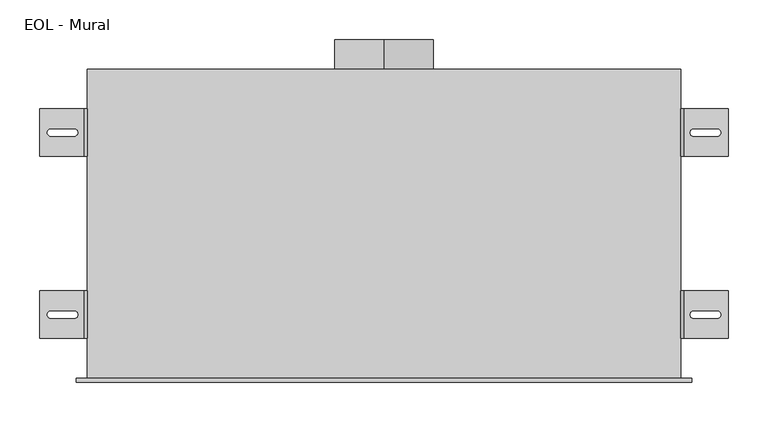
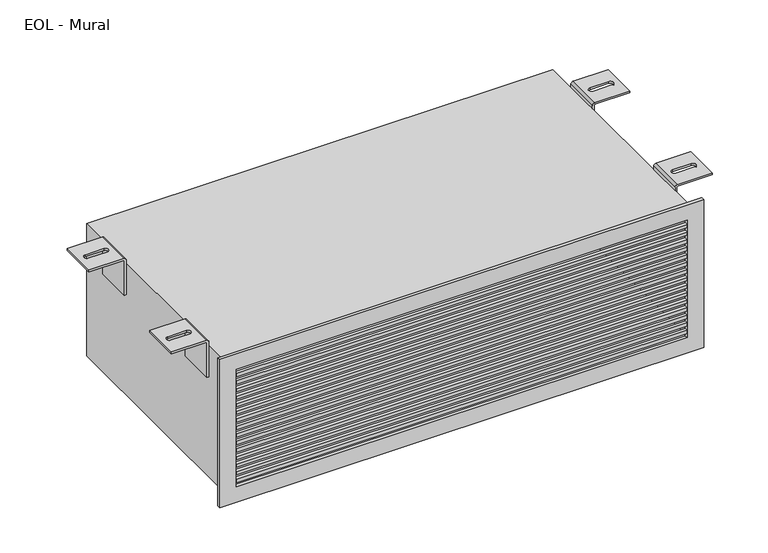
"""IFC4 building model written with IfcOpenShell, lengths in millimetres: air terminal geometry, EOL - Mural : EOL-M125-750x225-2."""

from ifc_helpers import new_model, si_unit, point, frame, origin, origin_2d, place, context, project, spatial, polyline, circle_curve, ellipse_curve, trimmed, segment, composite_curve, outline, extrude, source, transform, mapped, element, save
from ifc_brep_helpers import plane_surface, cylinder_surface, revolved_surface, extruded_surface, advanced_brep


def eol_mural_cd177fe5(model_context):
    return source(origin(), model_context, "Body", "SolidModel", [
        advanced_brep(
        [(379.0013366, 110.0, 121.5), (435.0, 110.0, 121.5), (435.0, 110.0, 118.5), (379.0, 110.0, 118.5), (378.0, 110.0, 117.5), (378.0, 110.0, 58.5), (375.0, 110.0, 58.5), (375.0, 110.0, 117.4986634), (379.0013366, 50.0, 121.5), (375.0, 50.0, 117.4986634), (375.0, 50.0, 58.5), (378.0, 50.0, 58.5), (378.0, 50.0, 117.5), (379.0, 50.0, 118.5), (435.0, 50.0, 118.5), (435.0, 50.0, 121.5), (421.0287952, 75.4804328, 121.5), (391.0287952, 75.4804328, 121.5), (391.0287952, 84.4804328, 121.5), (421.0287952, 84.4804328, 121.5), (391.0287952, 75.4804328, 118.5), (421.0287952, 75.4804328, 118.5), (421.0287952, 84.4804328, 118.5), (391.0287952, 84.4804328, 118.5)],
        [
            (0, 1),
            (1, 2),
            (2, 3),
            (3, 4, circle_curve(frame((379.0, 110.0, 117.5), z_axis=(0.0, -1.0, 0.0), x_axis=(-1.0000000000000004, 0.0, 0.0)), 1.0)),
            (4, 5),
            (5, 6),
            (6, 7),
            (7, 0, circle_curve(frame((379.0013366, 110.0, 117.4986634), z_axis=(0.0, 1.0, 0.0), x_axis=(-1.0000000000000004, 0.0, 0.0)), 4.0013366)),
            (8, 9, circle_curve(frame((379.0013366, 50.0, 117.4986634), z_axis=(0.0, -1.0, 0.0), x_axis=(-1.0000000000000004, 0.0, 0.0)), 4.0013366)),
            (9, 10),
            (10, 11),
            (11, 12),
            (12, 13, circle_curve(frame((379.0, 50.0, 117.5), z_axis=(0.0, 1.0, 0.0), x_axis=(-1.0000000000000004, 0.0, 0.0)), 1.0)),
            (13, 14),
            (14, 15),
            (15, 8),
            (0, 8),
            (15, 1),
            (16, 17),
            (17, 18, circle_curve(frame((391.0287952, 79.9804328, 121.5), z_axis=(0.0, 0.0, -1.0), x_axis=(0.0, -1.0, 0.0)), 4.5)),
            (18, 19),
            (19, 16, circle_curve(frame((421.0287952, 79.9804328, 121.5), z_axis=(0.0, 0.0, -1.0), x_axis=(0.0, -1.0, 0.0)), 4.5)),
            (14, 2),
            (13, 3),
            (20, 21),
            (21, 22, ellipse_curve(frame((421.0287952, 79.9804328, 118.5), z_axis=(0.0, 0.0, 1.0), x_axis=(0.0, -1.0, 0.0)), 4.5, 4.5)),
            (22, 23),
            (23, 20, ellipse_curve(frame((391.0287952, 79.9804328, 118.5), z_axis=(0.0, 0.0, 1.0), x_axis=(0.0, -1.0, 0.0)), 4.5, 4.5)),
            (12, 4),
            (11, 5),
            (10, 6),
            (9, 7),
            (16, 21),
            (20, 17),
            (19, 22),
            (18, 23),
        ],
        [
            plane_surface(frame((435.0, 110.0, 121.5), z_axis=(0.0, 1.0, 0.0), x_axis=(1.0, 0.0, 0.0))),
            plane_surface(frame((435.0, 50.0, 121.5), z_axis=(0.0, -1.0, 0.0), x_axis=(-1.0, 0.0, 0.0))),
            plane_surface(frame((379.0013366, 110.0, 121.5), z_axis=(0.0, 0.0, 1.0), x_axis=(0.0, -1.0, 0.0))),
            plane_surface(frame((435.0, 110.0, 121.5), z_axis=(1.0, 0.0, 0.0), x_axis=(0.0, -1.0, 0.0))),
            plane_surface(frame((435.0, 110.0, 118.5), z_axis=(0.0, 0.0, -1.0), x_axis=(0.0, -1.0, 0.0))),
            revolved_surface(polyline([(378.0, 50.0, 117.5), (378.0, 110.00000000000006, 117.5)]), (379.0, 50.0, 117.5), (0.0, -1.0000000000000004, 0.0)),
            plane_surface(frame((378.0, 110.0, 117.5), z_axis=(1.0, 0.0, 0.0), x_axis=(0.0, -1.0, 0.0))),
            plane_surface(frame((378.0, 110.0, 58.5), z_axis=(0.0, 0.0, -1.0), x_axis=(0.0, -1.0, 0.0))),
            plane_surface(frame((375.0, 110.0, 58.5), z_axis=(-1.0, 0.0, 0.0), x_axis=(0.0, -1.0, 0.0))),
            cylinder_surface(frame((379.0013366, 50.0, 117.4986634), z_axis=(0.0, 1.0000000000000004, 0.0), x_axis=(-1.0000000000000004, 0.0, 0.0)), 4.0013366),
            plane_surface(frame((391.0287952, 75.4804328, 121.5), z_axis=(0.0, 1.0, 0.0), x_axis=(0.0, 0.0, -1.0))),
            extruded_surface(trimmed(ellipse_curve(frame((421.0287952, 79.9804328, 118.5), z_axis=(0.0, 0.0, 1.0), x_axis=(0.0, -1.0, 0.0)), 4.5, 4.5), [point((421.0287952, 75.4804328, 118.5))], [point((421.0287952, 84.4804328, 118.5))], True, "CARTESIAN"), (0.0, 0.0, -3.0), 3.0),
            plane_surface(frame((421.0287952, 84.4804328, 121.5), z_axis=(0.0, -1.0, 0.0), x_axis=(0.0, 0.0, -1.0))),
            extruded_surface(trimmed(ellipse_curve(frame((391.0287952, 79.9804328, 118.5), z_axis=(0.0, 0.0, 1.0), x_axis=(0.0, -1.0, 0.0)), 4.5, 4.5), [point((391.0287952, 84.4804328, 118.5))], [point((391.0287952, 75.4804328, 118.5))], True, "CARTESIAN"), (0.0, 0.0, -3.0), 3.0),
        ],
        [
            (0, [[1, 2, 3, 4, 5, 6, 7, 8]]),
            (1, [[9, 10, 11, 12, 13, 14, 15, 16]]),
            (2, [[-1, 17, -16, 18], [19, 20, 21, 22]]),
            (3, [[-2, -18, -15, 23]]),
            (4, [[-3, -23, -14, 24], [25, 26, 27, 28]]),
            (5, [[-4, -24, -13, 29]]),
            (6, [[-5, -29, -12, 30]]),
            (7, [[-6, -30, -11, 31]]),
            (8, [[-7, -31, -10, 32]]),
            (9, [[-8, -32, -9, -17]]),
            (10, [[33, -25, 34, -19]]),
            (11, [[-33, -22, 35, -26]]),
            (12, [[-35, -21, 36, -27]]),
            (13, [[-34, -28, -36, -20]]),
        ],
    ),
        advanced_brep(
        [(379.0013366, 340.0, 121.5), (435.0, 340.0, 121.5), (435.0, 340.0, 118.5), (379.0, 340.0, 118.5), (378.0, 340.0, 117.5), (378.0, 340.0, 58.5), (375.0, 340.0, 58.5), (375.0, 340.0, 117.4986634), (379.0013366, 280.0, 121.5), (375.0, 280.0, 117.4986634), (375.0, 280.0, 58.5), (378.0, 280.0, 58.5), (378.0, 280.0, 117.5), (379.0, 280.0, 118.5), (435.0, 280.0, 118.5), (435.0, 280.0, 121.5), (421.0287952, 305.4804328, 121.5), (391.0287952, 305.4804328, 121.5), (391.0287952, 314.4804328, 121.5), (421.0287952, 314.4804328, 121.5), (391.0287952, 305.4804328, 118.5), (421.0287952, 305.4804328, 118.5), (421.0287952, 314.4804328, 118.5), (391.0287952, 314.4804328, 118.5)],
        [
            (0, 1),
            (1, 2),
            (2, 3),
            (3, 4, circle_curve(frame((379.0, 340.0, 117.5), z_axis=(0.0, -1.0, 0.0), x_axis=(-1.0, 0.0, 0.0)), 1.0)),
            (4, 5),
            (5, 6),
            (6, 7),
            (7, 0, circle_curve(frame((379.0013366, 340.0, 117.4986634), z_axis=(0.0, 1.0, 0.0), x_axis=(-1.0, 0.0, 0.0)), 4.0013366)),
            (8, 9, circle_curve(frame((379.0013366, 280.0, 117.4986634), z_axis=(0.0, -1.0, 0.0), x_axis=(-1.0, 0.0, 0.0)), 4.0013366)),
            (9, 10),
            (10, 11),
            (11, 12),
            (12, 13, circle_curve(frame((379.0, 280.0, 117.5), z_axis=(0.0, 1.0, 0.0), x_axis=(-1.0, 0.0, 0.0)), 1.0)),
            (13, 14),
            (14, 15),
            (15, 8),
            (0, 8),
            (15, 1),
            (16, 17),
            (17, 18, circle_curve(frame((391.0287952, 309.9804328, 121.5), z_axis=(0.0, 0.0, -1.0), x_axis=(0.0, -1.0, 0.0)), 4.5)),
            (18, 19),
            (19, 16, circle_curve(frame((421.0287952, 309.9804328, 121.5), z_axis=(0.0, 0.0, -1.0), x_axis=(0.0, -1.0, 0.0)), 4.5)),
            (14, 2),
            (13, 3),
            (20, 21),
            (21, 22, ellipse_curve(frame((421.0287952, 309.9804328, 118.5), z_axis=(0.0, 0.0, 1.0), x_axis=(0.0, -1.0, 0.0)), 4.5, 4.5)),
            (22, 23),
            (23, 20, ellipse_curve(frame((391.0287952, 309.9804328, 118.5), z_axis=(0.0, 0.0, 1.0), x_axis=(0.0, -1.0, 0.0)), 4.5, 4.5)),
            (12, 4),
            (11, 5),
            (10, 6),
            (9, 7),
            (16, 21),
            (20, 17),
            (19, 22),
            (18, 23),
        ],
        [
            plane_surface(frame((435.0, 340.0, 121.5), z_axis=(0.0, 1.0, 0.0), x_axis=(1.0, 0.0, 0.0))),
            plane_surface(frame((435.0, 280.0, 121.5), z_axis=(0.0, -1.0, 0.0), x_axis=(-1.0, 0.0, 0.0))),
            plane_surface(frame((379.0013366, 340.0, 121.5), z_axis=(0.0, 0.0, 1.0), x_axis=(0.0, -1.0, 0.0))),
            plane_surface(frame((435.0, 340.0, 121.5), z_axis=(1.0, 0.0, 0.0), x_axis=(0.0, -1.0, 0.0))),
            plane_surface(frame((435.0, 340.0, 118.5), z_axis=(0.0, 0.0, -1.0), x_axis=(0.0, -1.0, 0.0))),
            revolved_surface(polyline([(378.0, 280.0, 117.5), (378.0, 340.0, 117.5)]), (379.0, 280.0, 117.5), (0.0, -1.0, 0.0)),
            plane_surface(frame((378.0, 340.0, 117.5), z_axis=(1.0, 0.0, 0.0), x_axis=(0.0, -1.0, 0.0))),
            plane_surface(frame((378.0, 340.0, 58.5), z_axis=(0.0, 0.0, -1.0), x_axis=(0.0, -1.0, 0.0))),
            plane_surface(frame((375.0, 340.0, 58.5), z_axis=(-1.0, 0.0, 0.0), x_axis=(0.0, -1.0, 0.0))),
            cylinder_surface(frame((379.0013366, 280.0, 117.4986634), z_axis=(0.0, 1.0, 0.0), x_axis=(-1.0, 0.0, 0.0)), 4.0013366),
            plane_surface(frame((391.0287952, 305.4804328, 121.5), z_axis=(0.0, 1.0, 0.0), x_axis=(0.0, 0.0, -1.0))),
            extruded_surface(trimmed(ellipse_curve(frame((421.0287952, 309.9804328, 118.5), z_axis=(0.0, 0.0, 1.0), x_axis=(0.0, -1.0, 0.0)), 4.5, 4.5), [point((421.0287952, 305.4804328, 118.5))], [point((421.0287952, 314.4804328, 118.5))], True, "CARTESIAN"), (0.0, 0.0, -3.0), 3.0),
            plane_surface(frame((421.0287952, 314.4804328, 121.5), z_axis=(0.0, -1.0, 0.0), x_axis=(0.0, 0.0, -1.0))),
            extruded_surface(trimmed(ellipse_curve(frame((391.0287952, 309.9804328, 118.5), z_axis=(0.0, 0.0, 1.0), x_axis=(0.0, -1.0, 0.0)), 4.5, 4.5), [point((391.0287952, 314.4804328, 118.5))], [point((391.0287952, 305.4804328, 118.5))], True, "CARTESIAN"), (0.0, 0.0, -3.0), 3.0),
        ],
        [
            (0, [[1, 2, 3, 4, 5, 6, 7, 8]]),
            (1, [[9, 10, 11, 12, 13, 14, 15, 16]]),
            (2, [[-1, 17, -16, 18], [19, 20, 21, 22]]),
            (3, [[-2, -18, -15, 23]]),
            (4, [[-3, -23, -14, 24], [25, 26, 27, 28]]),
            (5, [[-4, -24, -13, 29]]),
            (6, [[-5, -29, -12, 30]]),
            (7, [[-6, -30, -11, 31]]),
            (8, [[-7, -31, -10, 32]]),
            (9, [[-8, -32, -9, -17]]),
            (10, [[33, -25, 34, -19]]),
            (11, [[-33, -22, 35, -26]]),
            (12, [[-35, -21, 36, -27]]),
            (13, [[-34, -28, -36, -20]]),
        ],
    ),
        advanced_brep(
        [(-379.0013366, 50.0, 121.5), (-435.0, 50.0, 121.5), (-435.0, 50.0, 118.5), (-379.0, 50.0, 118.5), (-378.0, 50.0, 117.5), (-378.0, 50.0, 58.5), (-375.0, 50.0, 58.5), (-375.0, 50.0, 117.4986634), (-379.0013366, 110.0, 121.5), (-375.0, 110.0, 117.4986634), (-375.0, 110.0, 58.5), (-378.0, 110.0, 58.5), (-378.0, 110.0, 117.5), (-379.0, 110.0, 118.5), (-435.0, 110.0, 118.5), (-435.0, 110.0, 121.5), (-421.0287952, 84.5195672, 121.5), (-391.0287952, 84.5195672, 121.5), (-391.0287952, 75.5195672, 121.5), (-421.0287952, 75.5195672, 121.5), (-391.0287952, 84.5195672, 118.5), (-421.0287952, 84.5195672, 118.5), (-421.0287952, 75.5195672, 118.5), (-391.0287952, 75.5195672, 118.5)],
        [
            (0, 1),
            (1, 2),
            (2, 3),
            (3, 4, circle_curve(frame((-379.0, 50.0, 117.5), z_axis=(0.0, 1.0, 0.0), x_axis=(1.0, 0.0, 0.0)), 1.0)),
            (4, 5),
            (5, 6),
            (6, 7),
            (7, 0, circle_curve(frame((-379.0013366, 50.0, 117.4986634), z_axis=(0.0, -1.0, 0.0), x_axis=(1.0, 0.0, 0.0)), 4.0013366)),
            (8, 9, circle_curve(frame((-379.0013366, 110.0, 117.4986634), z_axis=(0.0, 1.0, 0.0), x_axis=(1.0, 0.0, 0.0)), 4.0013366)),
            (9, 10),
            (10, 11),
            (11, 12),
            (12, 13, circle_curve(frame((-379.0, 110.0, 117.5), z_axis=(0.0, -1.0, 0.0), x_axis=(1.0, 0.0, 0.0)), 1.0)),
            (13, 14),
            (14, 15),
            (15, 8),
            (0, 8),
            (15, 1),
            (16, 17),
            (17, 18, circle_curve(frame((-391.0287952, 80.0195672, 121.5), z_axis=(0.0, 0.0, -1.0), x_axis=(0.0, 1.0, 0.0)), 4.5)),
            (18, 19),
            (19, 16, circle_curve(frame((-421.0287952, 80.0195672, 121.5), z_axis=(0.0, 0.0, -1.0), x_axis=(0.0, 1.0, 0.0)), 4.5)),
            (14, 2),
            (13, 3),
            (20, 21),
            (21, 22, ellipse_curve(frame((-421.0287952, 80.0195672, 118.5), z_axis=(0.0, 0.0, 1.0), x_axis=(0.0, 1.0, 0.0)), 4.5, 4.5)),
            (22, 23),
            (23, 20, ellipse_curve(frame((-391.0287952, 80.0195672, 118.5), z_axis=(0.0, 0.0, 1.0), x_axis=(0.0, 1.0, 0.0)), 4.5, 4.5)),
            (12, 4),
            (11, 5),
            (10, 6),
            (9, 7),
            (16, 21),
            (20, 17),
            (19, 22),
            (18, 23),
        ],
        [
            plane_surface(frame((-435.0, 50.0, 121.5), z_axis=(0.0, -1.0, 0.0), x_axis=(-1.0, 0.0, 0.0))),
            plane_surface(frame((-435.0, 110.0, 121.5), z_axis=(0.0, 1.0, 0.0), x_axis=(1.0, 0.0, 0.0))),
            plane_surface(frame((-379.0013366, 50.0, 121.5), z_axis=(0.0, 0.0, 1.0), x_axis=(0.0, 1.0, 0.0))),
            plane_surface(frame((-435.0, 50.0, 121.5), z_axis=(-1.0, 0.0, 0.0), x_axis=(0.0, 1.0, 0.0))),
            plane_surface(frame((-435.0, 50.0, 118.5), z_axis=(0.0, 0.0, -1.0), x_axis=(0.0, 1.0, 0.0))),
            revolved_surface(polyline([(-378.0, 110.0, 117.5), (-378.0, 50.0, 117.5)]), (-379.0, 110.0, 117.5), (0.0, 1.0, 0.0)),
            plane_surface(frame((-378.0, 50.0, 117.5), z_axis=(-1.0, 0.0, 0.0), x_axis=(0.0, 1.0, 0.0))),
            plane_surface(frame((-378.0, 50.0, 58.5), z_axis=(0.0, 0.0, -1.0), x_axis=(0.0, 1.0, 0.0))),
            plane_surface(frame((-375.0, 50.0, 58.5), z_axis=(1.0, 0.0, 0.0), x_axis=(0.0, 1.0, 0.0))),
            cylinder_surface(frame((-379.0013366, 110.0, 117.4986634), z_axis=(0.0, -1.0, 0.0), x_axis=(1.0, 0.0, 0.0)), 4.0013366),
            plane_surface(frame((-391.0287952, 84.5195672, 121.5), z_axis=(0.0, -1.0, 0.0), x_axis=(0.0, 0.0, -1.0))),
            extruded_surface(trimmed(ellipse_curve(frame((-421.0287952, 80.0195672, 118.5), z_axis=(0.0, 0.0, 1.0), x_axis=(0.0, 1.0, 0.0)), 4.5, 4.5), [point((-421.0287952, 84.5195672, 118.5))], [point((-421.0287952, 75.5195672, 118.5))], True, "CARTESIAN"), (0.0, 0.0, -3.0), 3.0),
            plane_surface(frame((-421.0287952, 75.5195672, 121.5), z_axis=(0.0, 1.0, 0.0), x_axis=(0.0, 0.0, -1.0))),
            extruded_surface(trimmed(ellipse_curve(frame((-391.0287952, 80.0195672, 118.5), z_axis=(0.0, 0.0, 1.0), x_axis=(0.0, 1.0, 0.0)), 4.5, 4.5), [point((-391.0287952, 75.5195672, 118.5))], [point((-391.0287952, 84.5195672, 118.5))], True, "CARTESIAN"), (0.0, 0.0, -3.0), 3.0),
        ],
        [
            (0, [[1, 2, 3, 4, 5, 6, 7, 8]]),
            (1, [[9, 10, 11, 12, 13, 14, 15, 16]]),
            (2, [[-1, 17, -16, 18], [19, 20, 21, 22]]),
            (3, [[-2, -18, -15, 23]]),
            (4, [[-3, -23, -14, 24], [25, 26, 27, 28]]),
            (5, [[-4, -24, -13, 29]]),
            (6, [[-5, -29, -12, 30]]),
            (7, [[-6, -30, -11, 31]]),
            (8, [[-7, -31, -10, 32]]),
            (9, [[-8, -32, -9, -17]]),
            (10, [[33, -25, 34, -19]]),
            (11, [[-33, -22, 35, -26]]),
            (12, [[-35, -21, 36, -27]]),
            (13, [[-34, -28, -36, -20]]),
        ],
    ),
        advanced_brep(
        [(-379.0013366, 280.0, 121.5), (-435.0, 280.0, 121.5), (-435.0, 280.0, 118.5), (-379.0, 280.0, 118.5), (-378.0, 280.0, 117.5), (-378.0, 280.0, 58.5), (-375.0, 280.0, 58.5), (-375.0, 280.0, 117.4986634), (-379.0013366, 340.0, 121.5), (-375.0, 340.0, 117.4986634), (-375.0, 340.0, 58.5), (-378.0, 340.0, 58.5), (-378.0, 340.0, 117.5), (-379.0, 340.0, 118.5), (-435.0, 340.0, 118.5), (-435.0, 340.0, 121.5), (-421.0287952, 314.5195672, 121.5), (-391.0287952, 314.5195672, 121.5), (-391.0287952, 305.5195672, 121.5), (-421.0287952, 305.5195672, 121.5), (-391.0287952, 314.5195672, 118.5), (-421.0287952, 314.5195672, 118.5), (-421.0287952, 305.5195672, 118.5), (-391.0287952, 305.5195672, 118.5)],
        [
            (0, 1),
            (1, 2),
            (2, 3),
            (3, 4, circle_curve(frame((-379.0, 280.0, 117.5), z_axis=(0.0, 1.0, 0.0), x_axis=(1.0, 0.0, 0.0)), 1.0)),
            (4, 5),
            (5, 6),
            (6, 7),
            (7, 0, circle_curve(frame((-379.0013366, 280.0, 117.4986634), z_axis=(0.0, -1.0, 0.0), x_axis=(1.0, 0.0, 0.0)), 4.0013366)),
            (8, 9, circle_curve(frame((-379.0013366, 340.0, 117.4986634), z_axis=(0.0, 1.0, 0.0), x_axis=(1.0, 0.0, 0.0)), 4.0013366)),
            (9, 10),
            (10, 11),
            (11, 12),
            (12, 13, circle_curve(frame((-379.0, 340.0, 117.5), z_axis=(0.0, -1.0, 0.0), x_axis=(1.0, 0.0, 0.0)), 1.0)),
            (13, 14),
            (14, 15),
            (15, 8),
            (0, 8),
            (15, 1),
            (16, 17),
            (17, 18, circle_curve(frame((-391.0287952, 310.0195672, 121.5), z_axis=(0.0, 0.0, -1.0), x_axis=(0.0, 1.0, 0.0)), 4.5)),
            (18, 19),
            (19, 16, circle_curve(frame((-421.0287952, 310.0195672, 121.5), z_axis=(0.0, 0.0, -1.0), x_axis=(0.0, 1.0, 0.0)), 4.5)),
            (14, 2),
            (13, 3),
            (20, 21),
            (21, 22, ellipse_curve(frame((-421.0287952, 310.0195672, 118.5), z_axis=(0.0, 0.0, 1.0), x_axis=(0.0, 1.0, 0.0)), 4.5, 4.5)),
            (22, 23),
            (23, 20, ellipse_curve(frame((-391.0287952, 310.0195672, 118.5), z_axis=(0.0, 0.0, 1.0), x_axis=(0.0, 1.0, 0.0)), 4.5, 4.5)),
            (12, 4),
            (11, 5),
            (10, 6),
            (9, 7),
            (16, 21),
            (20, 17),
            (19, 22),
            (18, 23),
        ],
        [
            plane_surface(frame((-435.0, 280.0, 121.5), z_axis=(0.0, -1.0, 0.0), x_axis=(-1.0, 0.0, 0.0))),
            plane_surface(frame((-435.0, 340.0, 121.5), z_axis=(0.0, 1.0, 0.0), x_axis=(1.0, 0.0, 0.0))),
            plane_surface(frame((-379.0013366, 280.0, 121.5), z_axis=(0.0, 0.0, 1.0), x_axis=(0.0, 1.0, 0.0))),
            plane_surface(frame((-435.0, 280.0, 121.5), z_axis=(-1.0, 0.0, 0.0), x_axis=(0.0, 1.0, 0.0))),
            plane_surface(frame((-435.0, 280.0, 118.5), z_axis=(0.0, 0.0, -1.0), x_axis=(0.0, 1.0, 0.0))),
            revolved_surface(polyline([(-378.0, 340.0, 117.5), (-378.0, 280.0, 117.5)]), (-379.0, 340.0, 117.5), (0.0, 1.0, 0.0)),
            plane_surface(frame((-378.0, 280.0, 117.5), z_axis=(-1.0, 0.0, 0.0), x_axis=(0.0, 1.0, 0.0))),
            plane_surface(frame((-378.0, 280.0, 58.5), z_axis=(0.0, 0.0, -1.0), x_axis=(0.0, 1.0, 0.0))),
            plane_surface(frame((-375.0, 280.0, 58.5), z_axis=(1.0, 0.0, 0.0), x_axis=(0.0, 1.0, 0.0))),
            cylinder_surface(frame((-379.0013366, 340.0, 117.4986634), z_axis=(0.0, -1.0, 0.0), x_axis=(1.0, 0.0, 0.0)), 4.0013366),
            plane_surface(frame((-391.0287952, 314.5195672, 121.5), z_axis=(0.0, -1.0, 0.0), x_axis=(0.0, 0.0, -1.0))),
            extruded_surface(trimmed(ellipse_curve(frame((-421.0287952, 310.0195672, 118.5), z_axis=(0.0, 0.0, 1.0), x_axis=(0.0, 1.0, 0.0)), 4.5, 4.5), [point((-421.0287952, 314.5195672, 118.5))], [point((-421.0287952, 305.5195672, 118.5))], True, "CARTESIAN"), (0.0, 0.0, -3.0), 3.0),
            plane_surface(frame((-421.0287952, 305.5195672, 121.5), z_axis=(0.0, 1.0, 0.0), x_axis=(0.0, 0.0, -1.0))),
            extruded_surface(trimmed(ellipse_curve(frame((-391.0287952, 310.0195672, 118.5), z_axis=(0.0, 0.0, 1.0), x_axis=(0.0, 1.0, 0.0)), 4.5, 4.5), [point((-391.0287952, 305.5195672, 118.5))], [point((-391.0287952, 314.5195672, 118.5))], True, "CARTESIAN"), (0.0, 0.0, -3.0), 3.0),
        ],
        [
            (0, [[1, 2, 3, 4, 5, 6, 7, 8]]),
            (1, [[9, 10, 11, 12, 13, 14, 15, 16]]),
            (2, [[-1, 17, -16, 18], [19, 20, 21, 22]]),
            (3, [[-2, -18, -15, 23]]),
            (4, [[-3, -23, -14, 24], [25, 26, 27, 28]]),
            (5, [[-4, -24, -13, 29]]),
            (6, [[-5, -29, -12, 30]]),
            (7, [[-6, -30, -11, 31]]),
            (8, [[-7, -31, -10, 32]]),
            (9, [[-8, -32, -9, -17]]),
            (10, [[33, -25, 34, -19]]),
            (11, [[-33, -22, 35, -26]]),
            (12, [[-35, -21, 36, -27]]),
            (13, [[-34, -28, -36, -20]]),
        ],
    ),
        extrude(outline(composite_curve([segment(trimmed(circle_curve(origin_2d(), 62.5), [point((-62.5, 0.0))], [point((62.5, 0.0))], False, "CARTESIAN"), True, "CONTINUOUS"), segment(trimmed(circle_curve(origin_2d(), 62.5), [point((62.5, 0.0))], [point((-62.5, 0.0))], False, "CARTESIAN"), True, "CONTINUOUS")], self_intersect=False), holes=[composite_curve([segment(trimmed(circle_curve(origin_2d(), 61.5), [point((0.0, 61.5))], [point((0.0, -61.5))], True, "CARTESIAN"), True, "CONTINUOUS"), segment(trimmed(circle_curve(origin_2d(), 61.5), [point((0.0, -61.5))], [point((0.0, 61.5))], True, "CARTESIAN"), True, "CONTINUOUS")], self_intersect=False)]), frame((0.0, 390.0, 0.0), z_axis=(0.0, 1.0, 0.0), x_axis=(0.0, 0.0, 1.0)), (0.0, 0.0, 1.0), 37.5),
        extrude(outline(polyline([(362.5, 0.0), (362.5, -5.0), (-362.5, -5.0), (-362.5, 0.0), (362.5, 0.0)])), frame((0.0, 0.0, 87.15), z_axis=(0.0, 0.0, 1.0), x_axis=(1.0, 0.0, 0.0)), (0.0, 0.0, 1.0), 5.6),
        extrude(outline(polyline([(362.5, 0.0), (362.5, -5.0), (-362.5, -5.0), (-362.5, 0.0), (362.5, 0.0)])), frame((0.0, 0.0, 74.3), z_axis=(0.0, 0.0, 1.0), x_axis=(1.0, 0.0, 0.0)), (0.0, 0.0, 1.0), 5.6),
        extrude(outline(polyline([(362.5, 0.0), (362.5, -5.0), (-362.5, -5.0), (-362.5, 0.0), (362.5, 0.0)])), frame((0.0, 0.0, 61.45), z_axis=(0.0, 0.0, 1.0), x_axis=(1.0, 0.0, 0.0)), (0.0, 0.0, 1.0), 5.6),
        extrude(outline(polyline([(362.5, 0.0), (362.5, -5.0), (-362.5, -5.0), (-362.5, 0.0), (362.5, 0.0)])), frame((0.0, 0.0, 48.6), z_axis=(0.0, 0.0, 1.0), x_axis=(1.0, 0.0, 0.0)), (0.0, 0.0, 1.0), 5.6),
        extrude(outline(polyline([(362.5, 0.0), (362.5, -5.0), (-362.5, -5.0), (-362.5, 0.0), (362.5, 0.0)])), frame((0.0, 0.0, 35.75), z_axis=(0.0, 0.0, 1.0), x_axis=(1.0, 0.0, 0.0)), (0.0, 0.0, 1.0), 5.6),
        extrude(outline(polyline([(362.5, 0.0), (362.5, -5.0), (-362.5, -5.0), (-362.5, 0.0), (362.5, 0.0)])), frame((0.0, 0.0, 22.9), z_axis=(0.0, 0.0, 1.0), x_axis=(1.0, 0.0, 0.0)), (0.0, 0.0, 1.0), 5.6),
        extrude(outline(polyline([(362.5, 0.0), (362.5, -5.0), (-362.5, -5.0), (-362.5, 0.0), (362.5, 0.0)])), frame((0.0, 0.0, 10.05), z_axis=(0.0, 0.0, 1.0), x_axis=(1.0, 0.0, 0.0)), (0.0, 0.0, 1.0), 5.6),
        extrude(outline(polyline([(362.5, 0.0), (362.5, -5.0), (-362.5, -5.0), (-362.5, 0.0), (362.5, 0.0)])), frame((0.0, 0.0, -2.8), z_axis=(0.0, 0.0, 1.0), x_axis=(1.0, 0.0, 0.0)), (0.0, 0.0, 1.0), 5.6),
        extrude(outline(polyline([(362.5, 0.0), (362.5, -5.0), (-362.5, -5.0), (-362.5, 0.0), (362.5, 0.0)])), frame((0.0, 0.0, -15.65), z_axis=(0.0, 0.0, 1.0), x_axis=(1.0, 0.0, 0.0)), (0.0, 0.0, 1.0), 5.6),
        extrude(outline(polyline([(362.5, 0.0), (362.5, -5.0), (-362.5, -5.0), (-362.5, 0.0), (362.5, 0.0)])), frame((0.0, 0.0, -28.5), z_axis=(0.0, 0.0, 1.0), x_axis=(1.0, 0.0, 0.0)), (0.0, 0.0, 1.0), 5.6),
        extrude(outline(polyline([(362.5, 0.0), (362.5, -5.0), (-362.5, -5.0), (-362.5, 0.0), (362.5, 0.0)])), frame((0.0, 0.0, -41.35), z_axis=(0.0, 0.0, 1.0), x_axis=(1.0, 0.0, 0.0)), (0.0, 0.0, 1.0), 5.6),
        extrude(outline(polyline([(362.5, 0.0), (362.5, -5.0), (-362.5, -5.0), (-362.5, 0.0), (362.5, 0.0)])), frame((0.0, 0.0, -54.2), z_axis=(0.0, 0.0, 1.0), x_axis=(1.0, 0.0, 0.0)), (0.0, 0.0, 1.0), 5.6),
        extrude(outline(polyline([(362.5, 0.0), (362.5, -5.0), (-362.5, -5.0), (-362.5, 0.0), (362.5, 0.0)])), frame((0.0, 0.0, -67.05), z_axis=(0.0, 0.0, 1.0), x_axis=(1.0, 0.0, 0.0)), (0.0, 0.0, 1.0), 5.6),
        extrude(outline(polyline([(362.5, 0.0), (362.5, -5.0), (-362.5, -5.0), (-362.5, 0.0), (362.5, 0.0)])), frame((0.0, 0.0, -79.9), z_axis=(0.0, 0.0, 1.0), x_axis=(1.0, 0.0, 0.0)), (0.0, 0.0, 1.0), 5.6),
        extrude(outline(polyline([(362.5, 0.0), (362.5, -5.0), (-362.5, -5.0), (-362.5, 0.0), (362.5, 0.0)])), frame((0.0, 0.0, -92.75), z_axis=(0.0, 0.0, 1.0), x_axis=(1.0, 0.0, 0.0)), (0.0, 0.0, 1.0), 5.6),
        extrude(outline(polyline([(126.0, 389.0), (126.0, -389.0), (-126.0, -389.0), (-126.0, 389.0), (126.0, 389.0)]), holes=[polyline([(100.0, 362.5), (-100.0, 362.5), (-100.0, -362.5), (100.0, -362.5), (100.0, 362.5)])]), frame((0.0, -5.0, 0.0), z_axis=(0.0, 1.0, 0.0), x_axis=(0.0, 0.0, 1.0)), (0.0, 0.0, 1.0), 5.0),
        advanced_brep(
        [(375.0, 390.0, 112.5), (-375.0, 390.0, 112.5), (-375.0, 0.0, 112.5), (375.0, 0.0, 112.5), (375.0, 390.0, -112.5), (375.0, 0.0, -112.5), (-375.0, 0.0, -112.5), (-375.0, 390.0, -112.5), (-61.5, 390.0, 0.0), (61.5, 390.0, 0.0), (-370.0, 0.0, 107.5), (370.0, 0.0, 107.5), (370.0, 0.0, -107.5), (-370.0, 0.0, -107.5), (370.0, 385.0, 107.5), (-370.0, 385.0, 107.5), (370.0, 385.0, -107.5), (-370.0, 385.0, -107.5), (61.5, 385.0, 0.0), (-61.5, 385.0, 0.0)],
        [
            (0, 1),
            (1, 2),
            (2, 3),
            (3, 0),
            (4, 5),
            (5, 6),
            (6, 7),
            (7, 4),
            (0, 4),
            (7, 1),
            (8, 9, circle_curve(frame((0.0, 390.0, 0.0), z_axis=(0.0, -1.0, 0.0), x_axis=(1.0, 0.0, 0.0)), 61.5)),
            (9, 8, circle_curve(frame((0.0, 390.0, 0.0), z_axis=(0.0, -1.0, 0.0), x_axis=(1.0, 0.0, 0.0)), 61.5)),
            (6, 2),
            (5, 3),
            (10, 11),
            (11, 12),
            (12, 13),
            (13, 10),
            (14, 11),
            (10, 15),
            (15, 14),
            (16, 17),
            (17, 13),
            (12, 16),
            (15, 17),
            (16, 14),
            (18, 19, circle_curve(frame((0.0, 385.0, 0.0), z_axis=(0.0, 1.0, 0.0), x_axis=(1.0, 0.0, 0.0)), 61.5)),
            (19, 18, circle_curve(frame((0.0, 385.0, 0.0), z_axis=(0.0, 1.0, 0.0), x_axis=(1.0, 0.0, 0.0)), 61.5)),
            (8, 19),
            (18, 9),
        ],
        [
            plane_surface(frame((-375.0, 390.0, 112.5), z_axis=(0.0, 0.0, 1.0), x_axis=(-1.0, 0.0, 0.0))),
            plane_surface(frame((-375.0, 390.0, -112.5), z_axis=(0.0, 0.0, -1.0), x_axis=(1.0, 0.0, 0.0))),
            plane_surface(frame((375.0, 390.0, 112.5), z_axis=(0.0, 1.0, 0.0), x_axis=(0.0, 0.0, -1.0))),
            plane_surface(frame((-375.0, 390.0, 112.5), z_axis=(-1.0, 0.0, 0.0), x_axis=(0.0, 0.0, -1.0))),
            plane_surface(frame((-375.0, 0.0, 112.5), z_axis=(0.0, -1.0, 0.0), x_axis=(0.0, 0.0, -1.0))),
            plane_surface(frame((375.0, 0.0, 112.5), z_axis=(1.0, 0.0, 0.0), x_axis=(0.0, 0.0, -1.0))),
            plane_surface(frame((-370.0, 385.0, 107.5), z_axis=(0.0, 0.0, -1.0), x_axis=(-1.0, 0.0, 0.0))),
            plane_surface(frame((-370.0, 385.0, -107.5), z_axis=(0.0, 0.0, 1.0), x_axis=(1.0, 0.0, 0.0))),
            plane_surface(frame((370.0, 385.0, 107.5), z_axis=(0.0, -1.0, 0.0), x_axis=(0.0, 0.0, -1.0))),
            plane_surface(frame((-370.0, 385.0, 107.5), z_axis=(1.0, 0.0, 0.0), x_axis=(0.0, 0.0, -1.0))),
            plane_surface(frame((370.0, 0.0, 107.5), z_axis=(-1.0, 0.0, 0.0), x_axis=(0.0, 0.0, -1.0))),
            revolved_surface(polyline([(61.5, 385.0, 0.0), (61.5, 390.0, 0.0)]), (0.0, 427.5, 0.0), (0.0, -1.0, 0.0)),
        ],
        [
            (0, [[1, 2, 3, 4]]),
            (1, [[5, 6, 7, 8]]),
            (2, [[-1, 9, -8, 10], [11, 12]]),
            (3, [[-2, -10, -7, 13]]),
            (4, [[-3, -13, -6, 14], [15, 16, 17, 18]]),
            (5, [[-4, -14, -5, -9]]),
            (6, [[19, -15, 20, 21]]),
            (7, [[22, 23, -17, 24]]),
            (8, [[-21, 25, -22, 26], [27, 28]]),
            (9, [[-20, -18, -23, -25]]),
            (10, [[-19, -26, -24, -16]]),
            (11, [[29, -27, 30, -11]]),
            (11, [[-29, -12, -30, -28]]),
        ],
    ),
    ])


if __name__ == "__main__":
    model = new_model("IFC4")
    model_context = context("Model", 3, world=origin())
    ifc_project = project(units=[si_unit("LENGTHUNIT", "METRE", prefix="MILLI")], contexts=[model_context])
    site = spatial("IfcSite", under=ifc_project)
    building = spatial("IfcBuilding", under=site)
    placement = place(None, origin())
    eol_mural_shape = eol_mural_cd177fe5(model_context)
    element("IfcAirTerminal", 1, ObjectType="EOL - Mural : EOL-M125-750x225-2", at=placement, inside=building, context=model_context, shape_type="MappedRepresentation", body=[
        mapped(eol_mural_shape, transform((0.0, 0.0, 0.0), x_axis=(1.0, 0.0, 0.0), y_axis=(0.0, 1.0, 0.0), z_axis=(0.0, 0.0, 1.0))),
    ])
    save(model, "model.ifc")
